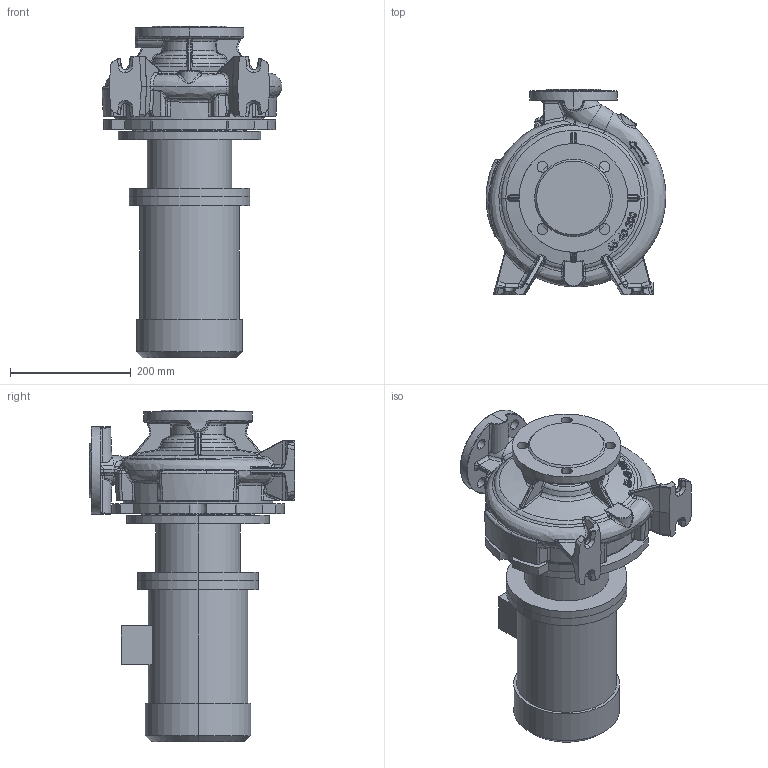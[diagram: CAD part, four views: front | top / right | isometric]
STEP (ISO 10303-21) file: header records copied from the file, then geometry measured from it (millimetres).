
FILE_DESCRIPTION (( 'STEP AP214' ), '1' );
FILE_NAME ('KRM 65-40-200-4-1,1.STEP', '2026-04-24T08:58:04', ( '' ), ( '' ), 'SwSTEP 2.0', 'SolidWorks 2016', '' );
FILE_SCHEMA (( 'AUTOMOTIVE_DESIGN' ));
Length unit declared in the file: millimetre
Products named in the file (1): KRM 65-40-200-4-1,1
Bounding box: 297.27 x 340 x 548.8 mm (x, y, z)
Volume: 16492037.8 mm3; surface area: 924373.7 mm2
Topology: 4 solids, 4 shells, 1118 faces, 2713 edges, 1612 vertices
Faces by surface type: bspline 511, cylinder 210, plane 197, cone 90, torus 82, sphere 28
Entity records: 83378 total; most frequent: CARTESIAN_POINT 49066, ORIENTED_EDGE 5384, DIRECTION 3534, EDGE_CURVE 2692, VERTEX_POINT 1612, AXIS2_PLACEMENT_3D 1493, EDGE_LOOP 1164, UNCERTAINTY_MEASURE_WITH_UNIT 1124
